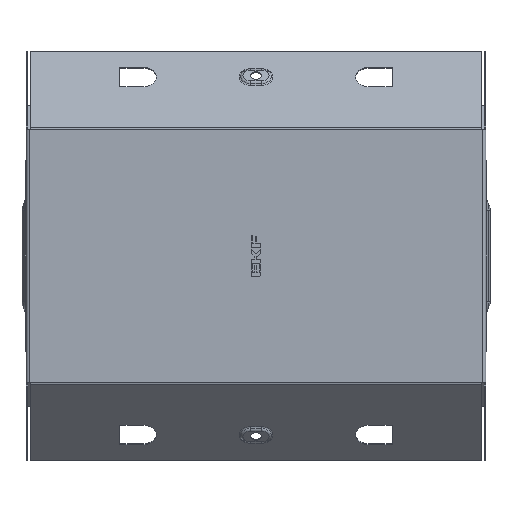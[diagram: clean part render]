
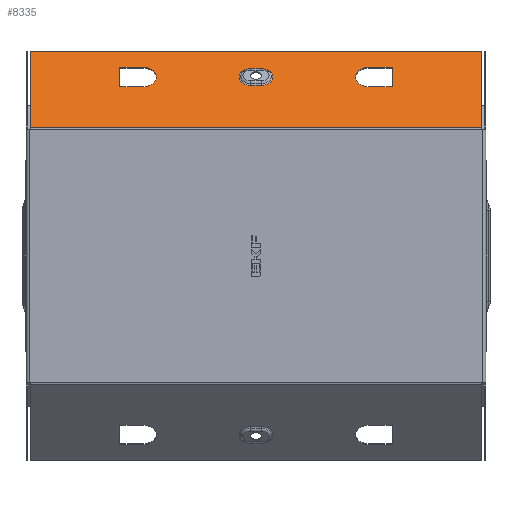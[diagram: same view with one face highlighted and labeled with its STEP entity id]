
A CAD part, front view. The second image highlights one B-rep face of the part: STEP entity #8335.
In plain terms, the highlighted planar face has unit normal (0, -0.707, 0.707).
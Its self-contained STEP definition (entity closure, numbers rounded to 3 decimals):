
#43 = LINE ( 'NONE', #12592, #2219 ) ;
#158 = VECTOR ( 'NONE', #10989, 1000. ) ;
#187 = VECTOR ( 'NONE', #12399, 1000. ) ;
#202 = EDGE_CURVE ( 'NONE', #436, #10244, #3657, .T. ) ;
#248 = ORIENTED_EDGE ( 'NONE', *, *, #9570, .T. ) ;
#358 = EDGE_CURVE ( 'NONE', #7543, #12929, #4997, .T. ) ;
#399 = CARTESIAN_POINT ( 'NONE',  ( -74., -11.167, 123.183 ) ) ;
#436 = VERTEX_POINT ( 'NONE', #10083 ) ;
#506 = CARTESIAN_POINT ( 'NONE',  ( 89., -11.167, 123.183 ) ) ;
#513 = VERTEX_POINT ( 'NONE', #13437 ) ;
#555 = DIRECTION ( 'NONE',  ( 0., 0.707, 0.707 ) ) ;
#663 = CARTESIAN_POINT ( 'NONE',  ( 74., -11.167, 123.183 ) ) ;
#670 = DIRECTION ( 'NONE',  ( 0., 0.707, 0.707 ) ) ;
#674 = DIRECTION ( 'NONE',  ( 0., 0.707, 0.707 ) ) ;
#677 = EDGE_LOOP ( 'NONE', ( #1259, #6024, #4790, #248 ) ) ;
#997 = LINE ( 'NONE', #399, #12777 ) ;
#1005 = CARTESIAN_POINT ( 'NONE',  ( 3.5, -17.531, 116.819 ) ) ;
#1055 = VERTEX_POINT ( 'NONE', #12160 ) ;
#1206 = ORIENTED_EDGE ( 'NONE', *, *, #2902, .T. ) ;
#1259 = ORIENTED_EDGE ( 'NONE', *, *, #8014, .T. ) ;
#1386 = ORIENTED_EDGE ( 'NONE', *, *, #2953, .T. ) ;
#1643 = EDGE_CURVE ( 'NONE', #10244, #1055, #1756, .T. ) ;
#1756 = LINE ( 'NONE', #7958, #11929 ) ;
#1877 = CARTESIAN_POINT ( 'NONE',  ( -74., -23.895, 110.455 ) ) ;
#1951 = AXIS2_PLACEMENT_3D ( 'NONE', #12235, #3626, #7786 ) ;
#2219 = VECTOR ( 'NONE', #7270, 1000. ) ;
#2288 = CARTESIAN_POINT ( 'NONE',  ( 3.5, -12.158, 122.192 ) ) ;
#2456 = AXIS2_PLACEMENT_3D ( 'NONE', #4753, #7052, #555 ) ;
#2557 = VERTEX_POINT ( 'NONE', #13248 ) ;
#2559 = CARTESIAN_POINT ( 'NONE',  ( 3.5, -22.903, 111.447 ) ) ;
#2609 = VERTEX_POINT ( 'NONE', #2559 ) ;
#2693 = VERTEX_POINT ( 'NONE', #12364 ) ;
#2796 = DIRECTION ( 'NONE',  ( -1., 0., 0. ) ) ;
#2829 = EDGE_LOOP ( 'NONE', ( #10814, #3684, #7251, #7722 ) ) ;
#2902 = EDGE_CURVE ( 'NONE', #513, #3573, #43, .T. ) ;
#2922 = CARTESIAN_POINT ( 'NONE',  ( -3.5, -22.903, 111.447 ) ) ;
#2953 = EDGE_CURVE ( 'NONE', #3573, #2609, #9830, .T. ) ;
#2967 = AXIS2_PLACEMENT_3D ( 'NONE', #12684, #11847, #670 ) ;
#3035 = CARTESIAN_POINT ( 'NONE',  ( -147.299, -0.56, 133.79 ) ) ;
#3089 = EDGE_LOOP ( 'NONE', ( #1206, #1386, #11364, #10751 ) ) ;
#3114 = VERTEX_POINT ( 'NONE', #3359 ) ;
#3257 = FACE_BOUND ( 'NONE', #677, .T. ) ;
#3269 = VERTEX_POINT ( 'NONE', #9280 ) ;
#3359 = CARTESIAN_POINT ( 'NONE',  ( 89., -11.167, 123.183 ) ) ;
#3370 = ORIENTED_EDGE ( 'NONE', *, *, #1643, .T. ) ;
#3437 = VERTEX_POINT ( 'NONE', #6389 ) ;
#3544 = LINE ( 'NONE', #8797, #158 ) ;
#3573 = VERTEX_POINT ( 'NONE', #2288 ) ;
#3626 = DIRECTION ( 'NONE',  ( 0., 0.707, -0.707 ) ) ;
#3657 = LINE ( 'NONE', #8427, #6695 ) ;
#3684 = ORIENTED_EDGE ( 'NONE', *, *, #11780, .T. ) ;
#3748 = CIRCLE ( 'NONE', #2456, 7.598 ) ;
#3786 = LINE ( 'NONE', #11206, #5977 ) ;
#3943 = DIRECTION ( 'NONE',  ( 0., 0.707, 0.707 ) ) ;
#3958 = AXIS2_PLACEMENT_3D ( 'NONE', #5615, #4646, #10035 ) ;
#3961 = CARTESIAN_POINT ( 'NONE',  ( -89., -11.167, 123.183 ) ) ;
#4533 = ORIENTED_EDGE ( 'NONE', *, *, #202, .T. ) ;
#4646 = DIRECTION ( 'NONE',  ( 0., 0.707, -0.707 ) ) ;
#4753 = CARTESIAN_POINT ( 'NONE',  ( -3.5, -17.531, 116.819 ) ) ;
#4790 = ORIENTED_EDGE ( 'NONE', *, *, #7122, .T. ) ;
#4889 = DIRECTION ( 'NONE',  ( 0., -0.707, -0.707 ) ) ;
#4997 = CIRCLE ( 'NONE', #1951, 9. ) ;
#5377 = DIRECTION ( 'NONE',  ( -1., 0., 0. ) ) ;
#5532 = CARTESIAN_POINT ( 'NONE',  ( -74., -23.895, 110.455 ) ) ;
#5534 = VERTEX_POINT ( 'NONE', #5946 ) ;
#5615 = CARTESIAN_POINT ( 'NONE',  ( 148.2, -50.8, 83.55 ) ) ;
#5755 = VECTOR ( 'NONE', #7267, 1000. ) ;
#5946 = CARTESIAN_POINT ( 'NONE',  ( 89., -23.895, 110.455 ) ) ;
#5977 = VECTOR ( 'NONE', #10094, 1000. ) ;
#6019 = ORIENTED_EDGE ( 'NONE', *, *, #7032, .F. ) ;
#6024 = ORIENTED_EDGE ( 'NONE', *, *, #11632, .T. ) ;
#6178 = CARTESIAN_POINT ( 'NONE',  ( 147.299, -51.015, 83.335 ) ) ;
#6389 = CARTESIAN_POINT ( 'NONE',  ( 74., -23.895, 110.455 ) ) ;
#6612 = EDGE_CURVE ( 'NONE', #7358, #513, #3748, .T. ) ;
#6624 = VERTEX_POINT ( 'NONE', #7732 ) ;
#6695 = VECTOR ( 'NONE', #5377, 1000. ) ;
#6741 = EDGE_CURVE ( 'NONE', #12929, #2693, #12861, .T. ) ;
#6884 = AXIS2_PLACEMENT_3D ( 'NONE', #1005, #8682, #8596 ) ;
#7032 = EDGE_CURVE ( 'NONE', #6624, #1055, #3544, .T. ) ;
#7052 = DIRECTION ( 'NONE',  ( 0., 0.707, -0.707 ) ) ;
#7087 = EDGE_CURVE ( 'NONE', #6624, #436, #10638, .T. ) ;
#7122 = EDGE_CURVE ( 'NONE', #2557, #3114, #13827, .T. ) ;
#7251 = ORIENTED_EDGE ( 'NONE', *, *, #358, .T. ) ;
#7267 = DIRECTION ( 'NONE',  ( 1., 0., 0. ) ) ;
#7270 = DIRECTION ( 'NONE',  ( 1., 0., 0. ) ) ;
#7358 = VERTEX_POINT ( 'NONE', #2922 ) ;
#7543 = VERTEX_POINT ( 'NONE', #8501 ) ;
#7722 = ORIENTED_EDGE ( 'NONE', *, *, #6741, .T. ) ;
#7732 = CARTESIAN_POINT ( 'NONE',  ( 147.299, -50.273, 84.077 ) ) ;
#7786 = DIRECTION ( 'NONE',  ( 0., -0.707, -0.707 ) ) ;
#7873 = DIRECTION ( 'NONE',  ( 1., 0., 0. ) ) ;
#7958 = CARTESIAN_POINT ( 'NONE',  ( -147.299, -50.8, 83.55 ) ) ;
#8014 = EDGE_CURVE ( 'NONE', #5534, #3437, #9178, .T. ) ;
#8088 = LINE ( 'NONE', #3961, #8255 ) ;
#8241 = CIRCLE ( 'NONE', #2967, 9. ) ;
#8255 = VECTOR ( 'NONE', #674, 1000. ) ;
#8335 = ADVANCED_FACE ( 'NONE', ( #3257, #12246, #8706, #13574 ), #10976, .F. ) ;
#8427 = CARTESIAN_POINT ( 'NONE',  ( 148.2, -0.56, 133.79 ) ) ;
#8501 = CARTESIAN_POINT ( 'NONE',  ( -74., -11.167, 123.183 ) ) ;
#8596 = DIRECTION ( 'NONE',  ( 0., 0.707, 0.707 ) ) ;
#8626 = EDGE_CURVE ( 'NONE', #2609, #7358, #3786, .T. ) ;
#8647 = VECTOR ( 'NONE', #3943, 1000. ) ;
#8682 = DIRECTION ( 'NONE',  ( 0., 0.707, -0.707 ) ) ;
#8706 = FACE_BOUND ( 'NONE', #3089, .T. ) ;
#8797 = CARTESIAN_POINT ( 'NONE',  ( 148.2, -50.273, 84.077 ) ) ;
#9160 = VECTOR ( 'NONE', #2796, 1000. ) ;
#9178 = LINE ( 'NONE', #10609, #187 ) ;
#9280 = CARTESIAN_POINT ( 'NONE',  ( -89., -11.167, 123.183 ) ) ;
#9570 = EDGE_CURVE ( 'NONE', #3114, #5534, #13114, .T. ) ;
#9830 = CIRCLE ( 'NONE', #6884, 7.598 ) ;
#10035 = DIRECTION ( 'NONE',  ( 0., 0.707, 0.707 ) ) ;
#10083 = CARTESIAN_POINT ( 'NONE',  ( 147.299, -0.56, 133.79 ) ) ;
#10094 = DIRECTION ( 'NONE',  ( -1., 0., 0. ) ) ;
#10204 = EDGE_CURVE ( 'NONE', #2693, #3269, #8088, .T. ) ;
#10244 = VERTEX_POINT ( 'NONE', #3035 ) ;
#10609 = CARTESIAN_POINT ( 'NONE',  ( 74., -23.895, 110.455 ) ) ;
#10638 = LINE ( 'NONE', #6178, #8647 ) ;
#10751 = ORIENTED_EDGE ( 'NONE', *, *, #6612, .T. ) ;
#10814 = ORIENTED_EDGE ( 'NONE', *, *, #10204, .T. ) ;
#10913 = VECTOR ( 'NONE', #4889, 1000. ) ;
#10976 = PLANE ( 'NONE',  #3958 ) ;
#10989 = DIRECTION ( 'NONE',  ( -1., 0., 0. ) ) ;
#11206 = CARTESIAN_POINT ( 'NONE',  ( 3.5, -22.903, 111.447 ) ) ;
#11275 = DIRECTION ( 'NONE',  ( 0., -0.707, -0.707 ) ) ;
#11364 = ORIENTED_EDGE ( 'NONE', *, *, #8626, .T. ) ;
#11632 = EDGE_CURVE ( 'NONE', #3437, #2557, #8241, .T. ) ;
#11780 = EDGE_CURVE ( 'NONE', #3269, #7543, #997, .T. ) ;
#11826 = EDGE_LOOP ( 'NONE', ( #3370, #6019, #13939, #4533 ) ) ;
#11847 = DIRECTION ( 'NONE',  ( 0., 0.707, -0.707 ) ) ;
#11929 = VECTOR ( 'NONE', #11275, 1000. ) ;
#12160 = CARTESIAN_POINT ( 'NONE',  ( -147.299, -50.273, 84.077 ) ) ;
#12235 = CARTESIAN_POINT ( 'NONE',  ( -74., -17.531, 116.819 ) ) ;
#12246 = FACE_BOUND ( 'NONE', #2829, .T. ) ;
#12364 = CARTESIAN_POINT ( 'NONE',  ( -89., -23.895, 110.455 ) ) ;
#12399 = DIRECTION ( 'NONE',  ( -1., 0., 0. ) ) ;
#12592 = CARTESIAN_POINT ( 'NONE',  ( 3.5, -12.158, 122.192 ) ) ;
#12684 = CARTESIAN_POINT ( 'NONE',  ( 74., -17.531, 116.819 ) ) ;
#12777 = VECTOR ( 'NONE', #7873, 1000. ) ;
#12861 = LINE ( 'NONE', #5532, #9160 ) ;
#12929 = VERTEX_POINT ( 'NONE', #1877 ) ;
#13114 = LINE ( 'NONE', #506, #10913 ) ;
#13248 = CARTESIAN_POINT ( 'NONE',  ( 74., -11.167, 123.183 ) ) ;
#13437 = CARTESIAN_POINT ( 'NONE',  ( -3.5, -12.158, 122.192 ) ) ;
#13574 = FACE_OUTER_BOUND ( 'NONE', #11826, .T. ) ;
#13827 = LINE ( 'NONE', #663, #5755 ) ;
#13939 = ORIENTED_EDGE ( 'NONE', *, *, #7087, .T. ) ;
